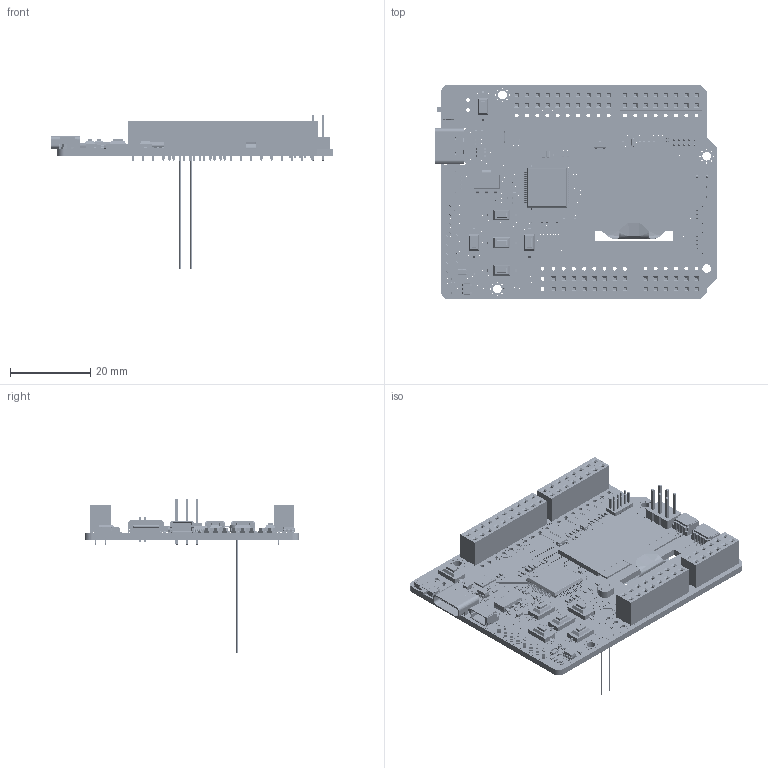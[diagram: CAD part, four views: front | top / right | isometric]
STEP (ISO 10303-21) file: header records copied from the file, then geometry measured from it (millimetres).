
FILE_DESCRIPTION(('KiCad electronic assembly'),'2;1');
FILE_NAME('SPARK_2.step','2024-08-13T21:07:05',('Pcbnew'),('Kicad'), 'Open CASCADE STEP processor 7.7','KiCad to STEP converter','Unknown' );
FILE_SCHEMA(('AUTOMOTIVE_DESIGN { 1 0 10303 214 1 1 1 1 }'));
Length unit declared in the file: millimetre
Products named in the file (2857): SPARK_2 1; LED_0603_1608Metric; R_0402_1005Metric; C_0402_1005Metric; SM04B-SRSS-TB_LF__SN_; SM04B-SRSS-TB(LFSN); SW_SPST_CK_RS282G05A3; SOT-23; SOT_23; SOT-23-5; SOT_23_5; SM03B-SRSS-TB_LF__SN_; SM03B-SRSS-TB(LF)(SN); PinHeader_2x03_P2.54mm_Vertical; PinHeader_2x03_P254mm_Vertical; C_0805_2012Metric; PinSocket_1x06_P2.54mm_Vertical; PinSocket_1x06_P254mm_Vertical; BLM18PG471SN1D; BLM18EG601SN1D; PinSocket_1x08_P2.54mm_Vertical; PinSocket_1x08_P254mm_Vertical; Type-C 16P; D_SOD-323; D_SOD_323; Fuse_0805_2012Metric; LDR_COLOR; ST_HLGA-6_3.76x4.72mm_P1.65mm; C_0603_1608Metric; PinSocket_1x10_P2.54mm_Vertical; PinSocket_1x10_P254mm_Vertical; PinHeader_2x05_P1.27mm_Vertical; PinHeader_2x05_P127mm_Vertical; R7FA4M1AB3CFM#AA0; ASSEMBLY; SOT-23-6; SOT_23_6; SlideSwitch; PCM12SMTBR; SOT-223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
Assembly tree (2932 placements, depth 3):
  SPARK_2 1
    LED_0603_1608Metric  x8
      LED_0603_1608Metric
    R_0402_1005Metric  x37
      R_0402_1005Metric
    C_0402_1005Metric  x22
      C_0402_1005Metric
    SM04B-SRSS-TB_LF__SN_  x2
      SM04B-SRSS-TB(LFSN)
    SW_SPST_CK_RS282G05A3  x6
      SW_SPST_CK_RS282G05A3
    SOT-23
      SOT_23
    SOT-23-5
      SOT_23_5
    SM03B-SRSS-TB_LF__SN_
      SM03B-SRSS-TB(LF)(SN)
    PinHeader_2x03_P2.54mm_Vertical
      PinHeader_2x03_P254mm_Vertical
    C_0805_2012Metric
      C_0805_2012Metric
    PinSocket_1x06_P2.54mm_Vertical  x2
      PinSocket_1x06_P254mm_Vertical
    BLM18PG471SN1D  x2
      BLM18EG601SN1D
    PinSocket_1x08_P2.54mm_Vertical  x4
      PinSocket_1x08_P254mm_Vertical
    Type-C 16P
      Type-C 16P
    D_SOD-323
      D_SOD_323
    Fuse_0805_2012Metric
      Fuse_0805_2012Metric
    LDR_COLOR
      LDR_COLOR
    ST_HLGA-6_3.76x4.72mm_P1.65mm
      ST_HLGA-6_3.76x4.72mm_P1.65mm
    C_0603_1608Metric
      C_0603_1608Metric
    PinSocket_1x10_P2.54mm_Vertical  x2
      PinSocket_1x10_P254mm_Vertical
    PinHeader_2x05_P1.27mm_Vertical
      PinHeader_2x05_P127mm_Vertical
    R7FA4M1AB3CFM#AA0
      ASSEMBLY
    SOT-23-6
      SOT_23_6
    SlideSwitch
      PCM12SMTBR
    SOT-223
      SOT_223
    OLED_126x64
      OLED_126x64
    Axiometa_Spark2_V2.0_track_1
    Axiometa_Spark2_V2.0_track_2
    Axiometa_Spark2_V2.0_track_3
    Axiometa_Spark2_V2.0_track_4
    Axiometa_Spark2_V2.0_track_5
    Axiometa_Spark2_V2.0_track_6
    Axiometa_Spark2_V2.0_track_7
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Bounding box: 70.1 x 53.34 x 38.54 mm (x, y, z)
Volume: 9709.4 mm3; surface area: 23461.2 mm2
Topology: 2920 solids, 2920 shells, 31486 faces, 74979 edges, 49652 vertices
Faces by surface type: plane 24847, cylinder 6391, bspline 224, sphere 16, torus 4, cone 4
Full cylindrical faces by diameter (mm): 0.25 x540, 0.3 x360, 0.35 x120, 0.4 x48, 0.5 x360, 0.6 x30, 0.65 x22, 0.7 x48, 0.75 x6, 0.8 x4, 0.95 x327, 1 x222, 1.25 x1, 2.15 x12, 2.2 x8, 2.7 x2, 4.4 x6
Entity records: 872986 total; most frequent: CARTESIAN_POINT 139950, DIRECTION 136002, ORIENTED_EDGE 129198, EDGE_CURVE 64599, LINE 52824, VECTOR 52824, VERTEX_POINT 42892, AXIS2_PLACEMENT_3D 41589
